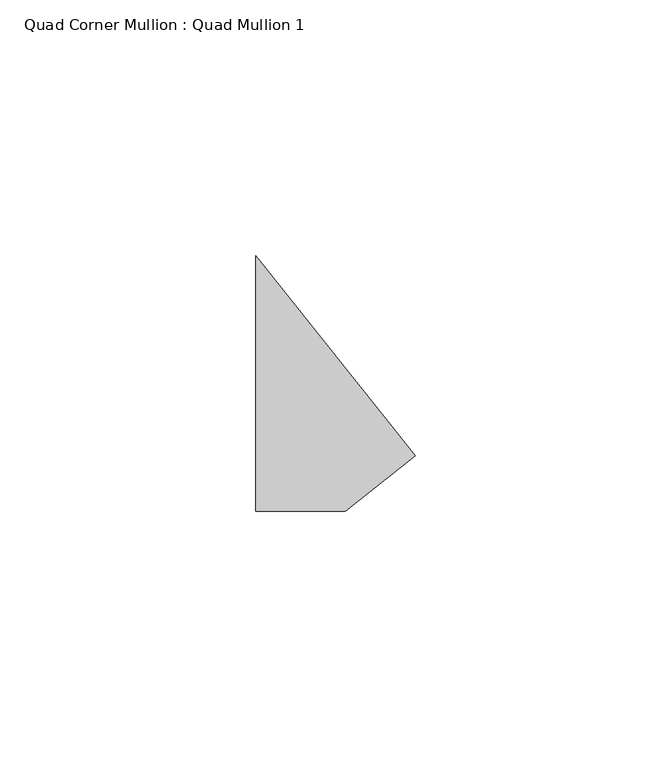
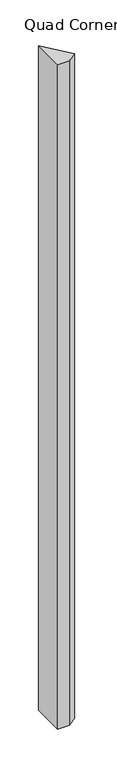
"""IFC4 building model written with IfcOpenShell, lengths in millimetres: member geometry, Quad Corner Mullion : Quad Mullion 1."""

from ifc_helpers import new_model, si_unit, frame, origin, place, context, project, spatial, polyline, outline, extrude, source, transform, mapped, element, save


def quad_corner_mullion_quad_mullion_1_f570420b(model_context):
    return source(origin(), model_context, "Body", "SweptSolid", [
        extrude(outline(polyline([(22.4169637, -14.1035695), (8.7424787, -25.0), (-8.7424787, -25.0), (-8.7424787, 25.0), (22.4169637, -14.1035695)])), frame((0.0, 0.0, -1050.0), z_axis=(0.0, 0.0, 1.0), x_axis=(1.0, 0.0, 0.0)), (0.0, 0.0, 1.0), 1050.0),
    ])


if __name__ == "__main__":
    model = new_model("IFC4")
    model_context = context("Model", 3, world=origin())
    ifc_project = project(units=[si_unit("LENGTHUNIT", "METRE", prefix="MILLI")], contexts=[model_context])
    site = spatial("IfcSite", under=ifc_project)
    building = spatial("IfcBuilding", under=site)
    placement = place(None, origin())
    quad_corner_mullion_quad_mullion_1_shape = quad_corner_mullion_quad_mullion_1_f570420b(model_context)
    element("IfcMember", 1, ObjectType="Quad Corner Mullion : Quad Mullion 1", at=placement, inside=building, context=model_context, shape_type="MappedRepresentation", body=[
        mapped(quad_corner_mullion_quad_mullion_1_shape, transform((0.0, 0.0, 0.0), x_axis=(1.0, 0.0, 0.0), y_axis=(0.0, 1.0, 0.0), z_axis=(0.0, 0.0, 1.0))),
    ])
    save(model, "model.ifc")
